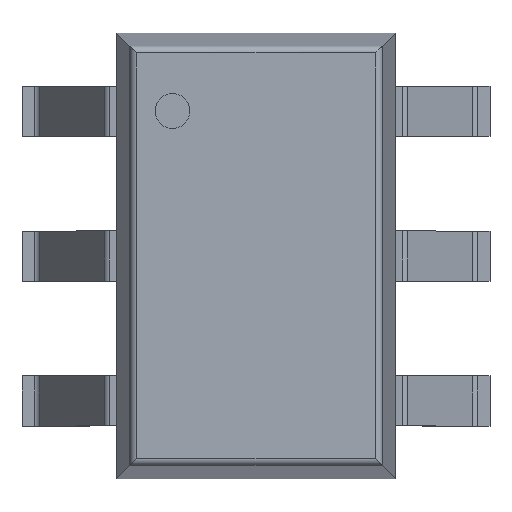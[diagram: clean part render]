
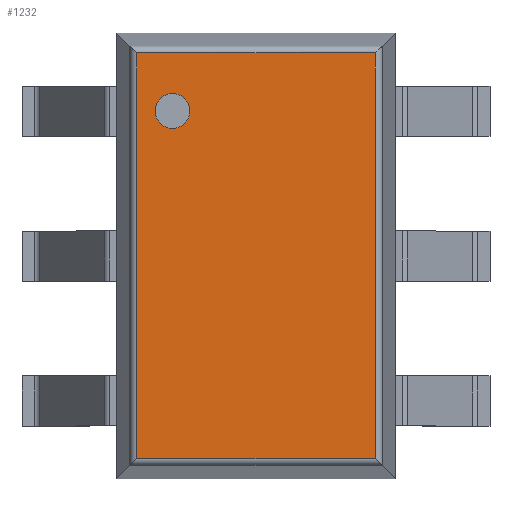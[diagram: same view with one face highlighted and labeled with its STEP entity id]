
A CAD part, top view. The second image highlights one B-rep face of the part: STEP entity #1232.
In plain terms, the highlighted planar face has unit normal (0, 0, 1).
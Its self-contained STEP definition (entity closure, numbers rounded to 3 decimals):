
#829 = CYLINDRICAL_SURFACE('',#830,0.031);
#830 = AXIS2_PLACEMENT_3D('',#831,#832,#833);
#831 = CARTESIAN_POINT('',(-0.535,-0.938,0.969));
#832 = DIRECTION('',(0.,1.,0.));
#833 = DIRECTION('',(-0.991,0.,0.132));
#971 = CYLINDRICAL_SURFACE('',#972,0.031);
#972 = AXIS2_PLACEMENT_3D('',#973,#974,#975);
#973 = CARTESIAN_POINT('',(-0.563,-0.91,0.969));
#974 = DIRECTION('',(1.,0.,0.));
#975 = DIRECTION('',(0.,-0.991,0.132));
#987 = VERTEX_POINT('',#988);
#988 = CARTESIAN_POINT('',(-0.535,-0.91,1.));
#1022 = EDGE_CURVE('',#987,#1023,#1025,.T.);
#1023 = VERTEX_POINT('',#1024);
#1024 = CARTESIAN_POINT('',(-0.535,0.91,1.));
#1025 = SURFACE_CURVE('',#1026,(#1030,#1037),.PCURVE_S1.);
#1026 = LINE('',#1027,#1028);
#1027 = CARTESIAN_POINT('',(-0.535,-0.938,1.));
#1028 = VECTOR('',#1029,1.);
#1029 = DIRECTION('',(0.,1.,0.));
#1030 = PCURVE('',#829,#1031);
#1031 = DEFINITIONAL_REPRESENTATION('',(#1032),#1036);
#1032 = LINE('',#1033,#1034);
#1033 = CARTESIAN_POINT('',(1.438,0.));
#1034 = VECTOR('',#1035,1.);
#1035 = DIRECTION('',(0.,1.));
#1036 = ( GEOMETRIC_REPRESENTATION_CONTEXT(2) 
PARAMETRIC_REPRESENTATION_CONTEXT() REPRESENTATION_CONTEXT('2D SPACE',''
  ) );
#1037 = PCURVE('',#1038,#1043);
#1038 = PLANE('',#1039);
#1039 = AXIS2_PLACEMENT_3D('',#1040,#1041,#1042);
#1040 = CARTESIAN_POINT('',(-0.625,-1.,1.));
#1041 = DIRECTION('',(0.,0.,1.));
#1042 = DIRECTION('',(1.,0.,0.));
#1043 = DEFINITIONAL_REPRESENTATION('',(#1044),#1048);
#1044 = LINE('',#1045,#1046);
#1045 = CARTESIAN_POINT('',(0.09,0.063));
#1046 = VECTOR('',#1047,1.);
#1047 = DIRECTION('',(0.,1.));
#1048 = ( GEOMETRIC_REPRESENTATION_CONTEXT(2) 
PARAMETRIC_REPRESENTATION_CONTEXT() REPRESENTATION_CONTEXT('2D SPACE',''
  ) );
#1071 = CYLINDRICAL_SURFACE('',#1072,0.031);
#1072 = AXIS2_PLACEMENT_3D('',#1073,#1074,#1075);
#1073 = CARTESIAN_POINT('',(-0.563,0.91,0.969));
#1074 = DIRECTION('',(1.,0.,0.));
#1075 = DIRECTION('',(0.,0.,1.));
#1159 = CYLINDRICAL_SURFACE('',#1160,0.031);
#1160 = AXIS2_PLACEMENT_3D('',#1161,#1162,#1163);
#1161 = CARTESIAN_POINT('',(0.535,-0.938,0.969));
#1162 = DIRECTION('',(0.,1.,0.));
#1163 = DIRECTION('',(0.,0.,1.));
#1175 = EDGE_CURVE('',#987,#1176,#1178,.T.);
#1176 = VERTEX_POINT('',#1177);
#1177 = CARTESIAN_POINT('',(0.535,-0.91,1.));
#1178 = SURFACE_CURVE('',#1179,(#1183,#1190),.PCURVE_S1.);
#1179 = LINE('',#1180,#1181);
#1180 = CARTESIAN_POINT('',(-0.563,-0.91,1.));
#1181 = VECTOR('',#1182,1.);
#1182 = DIRECTION('',(1.,0.,0.));
#1183 = PCURVE('',#971,#1184);
#1184 = DEFINITIONAL_REPRESENTATION('',(#1185),#1189);
#1185 = LINE('',#1186,#1187);
#1186 = CARTESIAN_POINT('',(-1.438,0.));
#1187 = VECTOR('',#1188,1.);
#1188 = DIRECTION('',(-0.,1.));
#1189 = ( GEOMETRIC_REPRESENTATION_CONTEXT(2) 
PARAMETRIC_REPRESENTATION_CONTEXT() REPRESENTATION_CONTEXT('2D SPACE',''
  ) );
#1190 = PCURVE('',#1038,#1191);
#1191 = DEFINITIONAL_REPRESENTATION('',(#1192),#1196);
#1192 = LINE('',#1193,#1194);
#1193 = CARTESIAN_POINT('',(0.063,0.09));
#1194 = VECTOR('',#1195,1.);
#1195 = DIRECTION('',(1.,0.));
#1196 = ( GEOMETRIC_REPRESENTATION_CONTEXT(2) 
PARAMETRIC_REPRESENTATION_CONTEXT() REPRESENTATION_CONTEXT('2D SPACE',''
  ) );
#1232 = ADVANCED_FACE('',(#1233,#1281),#1038,.T.);
#1233 = FACE_BOUND('',#1234,.T.);
#1234 = EDGE_LOOP('',(#1235,#1236,#1237,#1260));
#1235 = ORIENTED_EDGE('',*,*,#1022,.F.);
#1236 = ORIENTED_EDGE('',*,*,#1175,.T.);
#1237 = ORIENTED_EDGE('',*,*,#1238,.T.);
#1238 = EDGE_CURVE('',#1176,#1239,#1241,.T.);
#1239 = VERTEX_POINT('',#1240);
#1240 = CARTESIAN_POINT('',(0.535,0.91,1.));
#1241 = SURFACE_CURVE('',#1242,(#1246,#1253),.PCURVE_S1.);
#1242 = LINE('',#1243,#1244);
#1243 = CARTESIAN_POINT('',(0.535,-0.938,1.));
#1244 = VECTOR('',#1245,1.);
#1245 = DIRECTION('',(0.,1.,0.));
#1246 = PCURVE('',#1038,#1247);
#1247 = DEFINITIONAL_REPRESENTATION('',(#1248),#1252);
#1248 = LINE('',#1249,#1250);
#1249 = CARTESIAN_POINT('',(1.16,0.063));
#1250 = VECTOR('',#1251,1.);
#1251 = DIRECTION('',(0.,1.));
#1252 = ( GEOMETRIC_REPRESENTATION_CONTEXT(2) 
PARAMETRIC_REPRESENTATION_CONTEXT() REPRESENTATION_CONTEXT('2D SPACE',''
  ) );
#1253 = PCURVE('',#1159,#1254);
#1254 = DEFINITIONAL_REPRESENTATION('',(#1255),#1259);
#1255 = LINE('',#1256,#1257);
#1256 = CARTESIAN_POINT('',(0.,0.));
#1257 = VECTOR('',#1258,1.);
#1258 = DIRECTION('',(0.,1.));
#1259 = ( GEOMETRIC_REPRESENTATION_CONTEXT(2) 
PARAMETRIC_REPRESENTATION_CONTEXT() REPRESENTATION_CONTEXT('2D SPACE',''
  ) );
#1260 = ORIENTED_EDGE('',*,*,#1261,.F.);
#1261 = EDGE_CURVE('',#1023,#1239,#1262,.T.);
#1262 = SURFACE_CURVE('',#1263,(#1267,#1274),.PCURVE_S1.);
#1263 = LINE('',#1264,#1265);
#1264 = CARTESIAN_POINT('',(-0.563,0.91,1.));
#1265 = VECTOR('',#1266,1.);
#1266 = DIRECTION('',(1.,0.,0.));
#1267 = PCURVE('',#1038,#1268);
#1268 = DEFINITIONAL_REPRESENTATION('',(#1269),#1273);
#1269 = LINE('',#1270,#1271);
#1270 = CARTESIAN_POINT('',(0.063,1.91));
#1271 = VECTOR('',#1272,1.);
#1272 = DIRECTION('',(1.,0.));
#1273 = ( GEOMETRIC_REPRESENTATION_CONTEXT(2) 
PARAMETRIC_REPRESENTATION_CONTEXT() REPRESENTATION_CONTEXT('2D SPACE',''
  ) );
#1274 = PCURVE('',#1071,#1275);
#1275 = DEFINITIONAL_REPRESENTATION('',(#1276),#1280);
#1276 = LINE('',#1277,#1278);
#1277 = CARTESIAN_POINT('',(-0.,0.));
#1278 = VECTOR('',#1279,1.);
#1279 = DIRECTION('',(-0.,1.));
#1280 = ( GEOMETRIC_REPRESENTATION_CONTEXT(2) 
PARAMETRIC_REPRESENTATION_CONTEXT() REPRESENTATION_CONTEXT('2D SPACE',''
  ) );
#1281 = FACE_BOUND('',#1282,.T.);
#1282 = EDGE_LOOP('',(#1283));
#1283 = ORIENTED_EDGE('',*,*,#1284,.F.);
#1284 = EDGE_CURVE('',#1285,#1285,#1287,.T.);
#1285 = VERTEX_POINT('',#1286);
#1286 = CARTESIAN_POINT('',(-0.297,0.65,1.));
#1287 = SURFACE_CURVE('',#1288,(#1293,#1300),.PCURVE_S1.);
#1288 = CIRCLE('',#1289,0.078);
#1289 = AXIS2_PLACEMENT_3D('',#1290,#1291,#1292);
#1290 = CARTESIAN_POINT('',(-0.375,0.65,1.));
#1291 = DIRECTION('',(0.,0.,1.));
#1292 = DIRECTION('',(1.,0.,0.));
#1293 = PCURVE('',#1038,#1294);
#1294 = DEFINITIONAL_REPRESENTATION('',(#1295),#1299);
#1295 = CIRCLE('',#1296,0.078);
#1296 = AXIS2_PLACEMENT_2D('',#1297,#1298);
#1297 = CARTESIAN_POINT('',(0.25,1.65));
#1298 = DIRECTION('',(1.,0.));
#1299 = ( GEOMETRIC_REPRESENTATION_CONTEXT(2) 
PARAMETRIC_REPRESENTATION_CONTEXT() REPRESENTATION_CONTEXT('2D SPACE',''
  ) );
#1300 = PCURVE('',#1301,#1306);
#1301 = CYLINDRICAL_SURFACE('',#1302,0.078);
#1302 = AXIS2_PLACEMENT_3D('',#1303,#1304,#1305);
#1303 = CARTESIAN_POINT('',(-0.375,0.65,0.9));
#1304 = DIRECTION('',(0.,0.,1.));
#1305 = DIRECTION('',(1.,0.,0.));
#1306 = DEFINITIONAL_REPRESENTATION('',(#1307),#1311);
#1307 = LINE('',#1308,#1309);
#1308 = CARTESIAN_POINT('',(0.,0.1));
#1309 = VECTOR('',#1310,1.);
#1310 = DIRECTION('',(1.,0.));
#1311 = ( GEOMETRIC_REPRESENTATION_CONTEXT(2) 
PARAMETRIC_REPRESENTATION_CONTEXT() REPRESENTATION_CONTEXT('2D SPACE',''
  ) );
